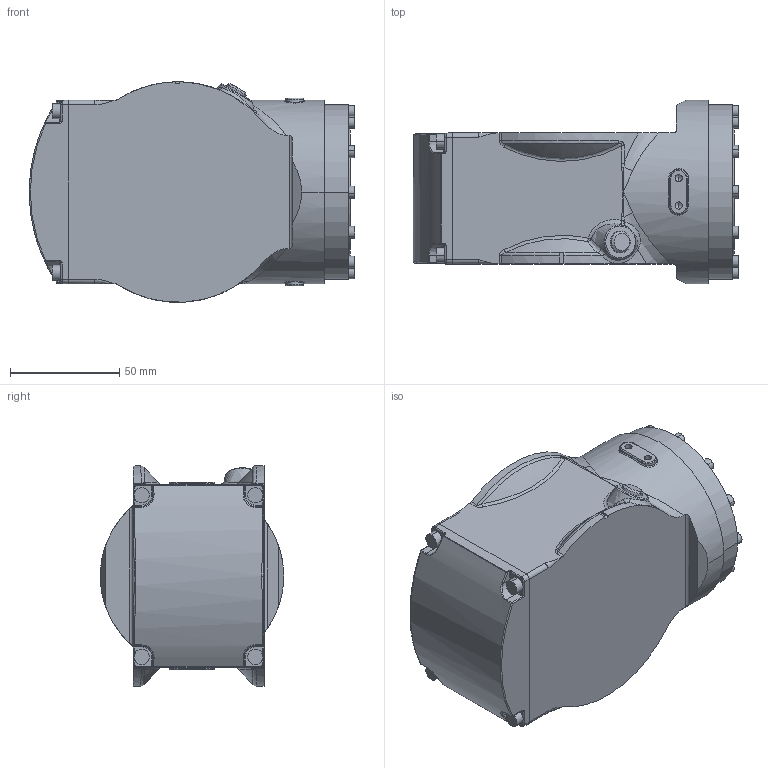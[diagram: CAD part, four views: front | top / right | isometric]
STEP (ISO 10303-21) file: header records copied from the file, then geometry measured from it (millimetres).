
FILE_DESCRIPTION (( 'STEP AP214' ), '1' );
FILE_NAME ('IRB1300 Type A_7&12Kg-1400-IP40IP67CR-BTM_OC_00_link5.STEP', '2026-05-19T12:12:15', ( '' ), ( '' ), 'SwSTEP 2.0', 'SolidWorks 2024', '' );
FILE_SCHEMA (( 'AUTOMOTIVE_DESIGN' ));
Length unit declared in the file: millimetre
Products named in the file (1): IRB1300 Type A_7&12Kg-1400-IP40IP67CR-BTM_OC_00_link5
Bounding box: 149 x 84 x 100.94 mm (x, y, z)
Volume: 726278.4 mm3; surface area: 53972.8 mm2
Topology: 1 solids, 1 shells, 287 faces, 683 edges, 403 vertices
Faces by surface type: cylinder 107, bspline 83, plane 54, cone 20, torus 14, sphere 9
Entity records: 16436 total; most frequent: CARTESIAN_POINT 10455, ORIENTED_EDGE 1334, DIRECTION 1142, EDGE_CURVE 667, AXIS2_PLACEMENT_3D 469, VERTEX_POINT 403, EDGE_LOOP 308, FACE_OUTER_BOUND 287
